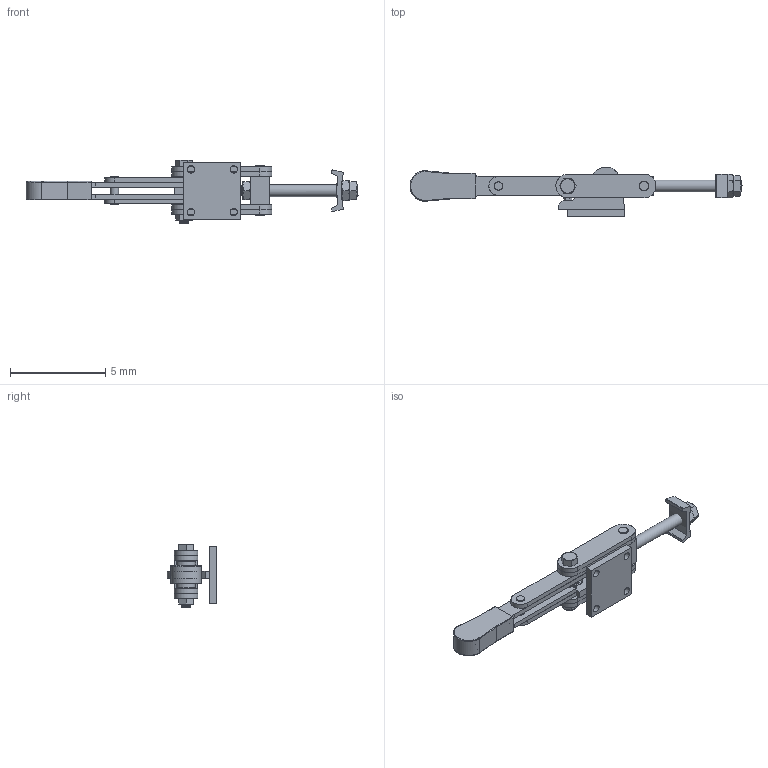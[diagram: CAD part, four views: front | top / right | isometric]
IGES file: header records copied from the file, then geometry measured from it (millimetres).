
Start section:  Autodesk DirectConnect version 7.0.27.0 ---- IGES version 5.3
Global section: file name: C:\Users\Nick\Desktop\PCR-8000\3D\PCR-8000.igs; native system: Autodesk DirectConnect 7.0.27.0; preprocessor: 7.0.27.0; author: Nick; organization: Unknown; date: 20150702.122702; units: millimetre
Bounding box: 17.46 x 2.62 x 3.36 mm (x, y, z)
Surface area: 269.3 mm2 (no closed solid volume)
Topology: 0 solids, 0 shells, 337 faces, 2004 edges, 1954 vertices
Faces by surface type: bspline 337
